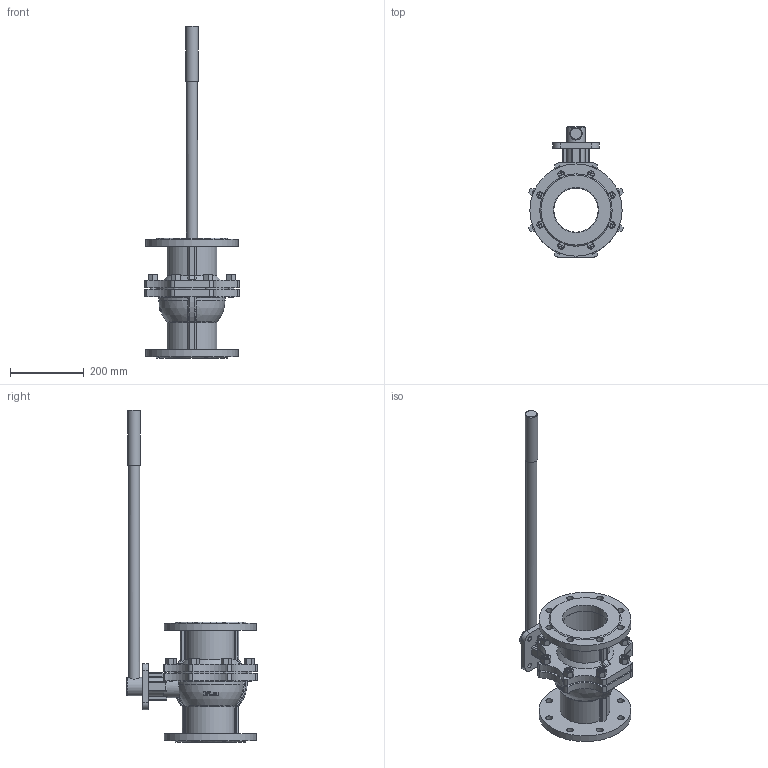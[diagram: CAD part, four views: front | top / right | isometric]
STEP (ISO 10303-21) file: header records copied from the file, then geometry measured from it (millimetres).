
FILE_DESCRIPTION(('STEP AP242'), '1');
FILE_NAME('BV3232P(2pc)-FP-F-ISO-H Êðàí øàðîâîé DN.ru Äó125 Ðó16', '', ('UNSPECIFIED'), ('UNSPECIFIED'), 'C3D Converter', 'C3D Toolkit', '');
FILE_SCHEMA(('AP242_MANAGED_MODEL_BASED_3D_ENGINEERING_MIM_LF { 1 0 10303 442 1 1 4 }'));
Length unit declared in the file: millimetre
Products named in the file (1): BV3232P(2pc)-FP-F-ISO-H
Bounding box: 255.45 x 353.72 x 900.03 mm (x, y, z)
Volume: 5264546.1 mm3; surface area: 780260 mm2
Topology: 1 solids, 1 shells, 624 faces, 1559 edges, 960 vertices
Faces by surface type: plane 281, cylinder 141, cone 141, bspline 31, sphere 15, torus 15
Full cylindrical faces by diameter (mm): 13.835 x6, 14 x4, 15 x6, 16 x8, 18 x16, 30 x1, 34 x1, 50 x2, 60 x1, 120 x3, 122 x2, 125 x1, 130 x1, 160 x1, 200 x1, 250 x2
Entity records: 31776 total; most frequent: CARTESIAN_POINT 16085, DIRECTION 2877, ORIENTED_EDGE 2874, EDGE_CURVE 1437, AXIS2_PLACEMENT_3D 1188, VERTEX_POINT 942, EDGE_LOOP 817, FACE_BOUND 701
